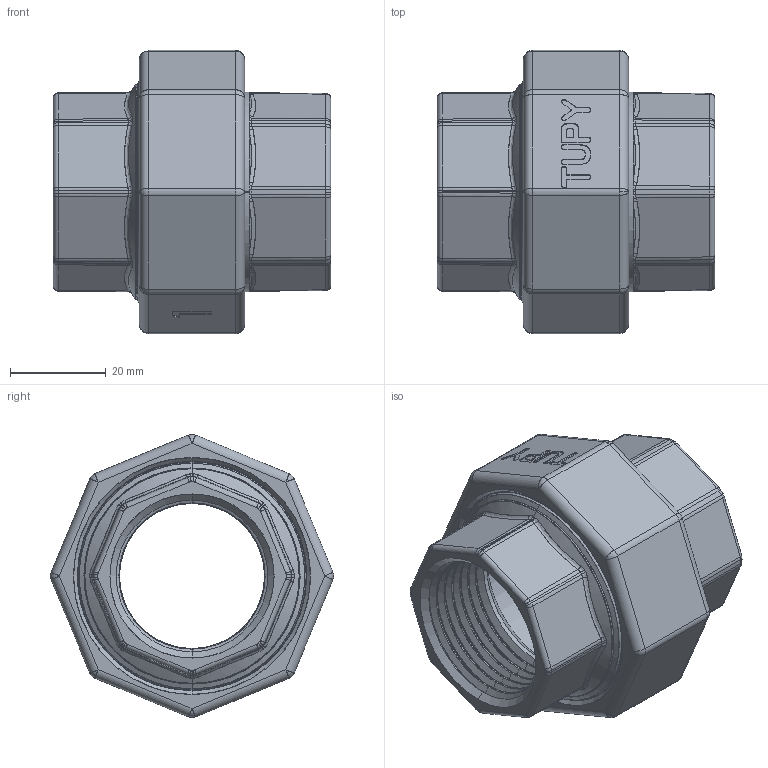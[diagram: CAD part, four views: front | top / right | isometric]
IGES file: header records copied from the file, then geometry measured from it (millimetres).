
Start section: SolidWorks IGES file using analytic representation for surfaces
Global section: file name: C:\Users\Joel Rosa\Desktop\Tubulação\12-63-X\12-63-007.IGS; native system: SolidWorks 2011; preprocessor: SolidWorks 2011; author: Joel Rosa; date: 130721.145208; units: millimetre
Bounding box: 58 x 59.21 x 59.22 mm (x, y, z)
Surface area: 31438.7 mm2 (no closed solid volume)
Topology: 0 solids, 0 shells, 632 faces, 4673 edges, 4667 vertices
Faces by surface type: bspline 415, revolution 217
